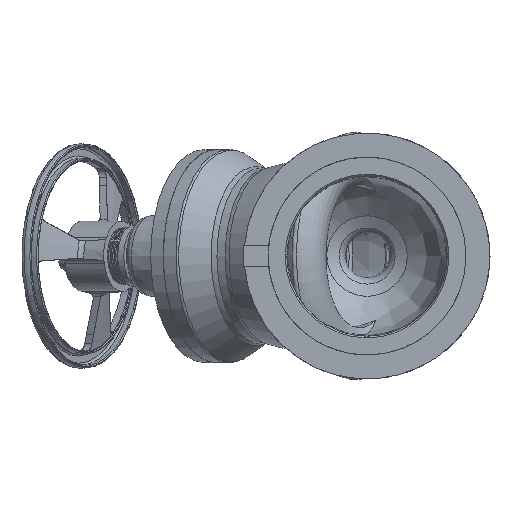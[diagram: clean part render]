
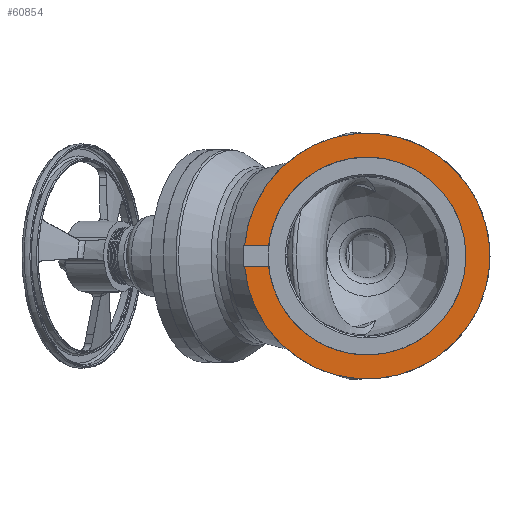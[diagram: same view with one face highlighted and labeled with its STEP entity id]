
A CAD part, left-side view. The second image highlights one B-rep face of the part: STEP entity #60854.
In plain terms, the highlighted planar face has unit normal (-1, 0, 0) by its records, which use the part's own axes.
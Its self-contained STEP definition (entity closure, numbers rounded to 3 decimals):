
#51624=CARTESIAN_POINT('',(-846.,229.213,19.015));
#51625=VERTEX_POINT('',#51624);
#51642=CARTESIAN_POINT('',(-846.,229.213,-19.015));
#51643=VERTEX_POINT('',#51642);
#51644=CARTESIAN_POINT('',(-846.,0.0,0.0));
#51645=DIRECTION('',(-1.0,0.0,0.0));
#51646=DIRECTION('',(0.0,-1.0,0.0));
#51647=AXIS2_PLACEMENT_3D('',#51644,#51645,#51646);
#51648=CIRCLE('',#51647,230.);
#51649=EDGE_CURVE('',#51643,#51625,#51648,.T.);
#60823=CARTESIAN_POINT('',(-846.,-207.5,0.0));
#60824=DIRECTION('',(-1.0,0.0,0.0));
#60825=DIRECTION('',(0.0,0.0,1.0));
#60826=AXIS2_PLACEMENT_3D('',#60823,#60824,#60825);
#60827=PLANE('',#60826);
#60828=CARTESIAN_POINT('',(-846.,184.02,19.015));
#60829=VERTEX_POINT('',#60828);
#60830=CARTESIAN_POINT('',(-846.,229.213,19.015));
#60831=DIRECTION('',(0.,-1.0,0.));
#60832=VECTOR('',#60831,45.193);
#60833=LINE('',#60830,#60832);
#60834=EDGE_CURVE('',#51625,#60829,#60833,.T.);
#60835=ORIENTED_EDGE('',*,*,#60834,.T.);
#60836=CARTESIAN_POINT('',(-846.,184.02,-19.015));
#60837=VERTEX_POINT('',#60836);
#60838=CARTESIAN_POINT('',(-846.,0.0,0.0));
#60839=DIRECTION('',(-1.0,0.0,0.0));
#60840=DIRECTION('',(0.0,-1.0,0.0));
#60841=AXIS2_PLACEMENT_3D('',#60838,#60839,#60840);
#60842=CIRCLE('',#60841,185.);
#60843=EDGE_CURVE('',#60837,#60829,#60842,.T.);
#60844=ORIENTED_EDGE('',*,*,#60843,.F.);
#60845=CARTESIAN_POINT('',(-846.,184.02,-19.015));
#60846=DIRECTION('',(0.,1.0,0.));
#60847=VECTOR('',#60846,45.193);
#60848=LINE('',#60845,#60847);
#60849=EDGE_CURVE('',#60837,#51643,#60848,.T.);
#60850=ORIENTED_EDGE('',*,*,#60849,.T.);
#60851=ORIENTED_EDGE('',*,*,#51649,.T.);
#60852=EDGE_LOOP('',(#60835,#60844,#60850,#60851));
#60853=FACE_OUTER_BOUND('',#60852,.T.);
#60854=ADVANCED_FACE('',(#60853),#60827,.T.);
